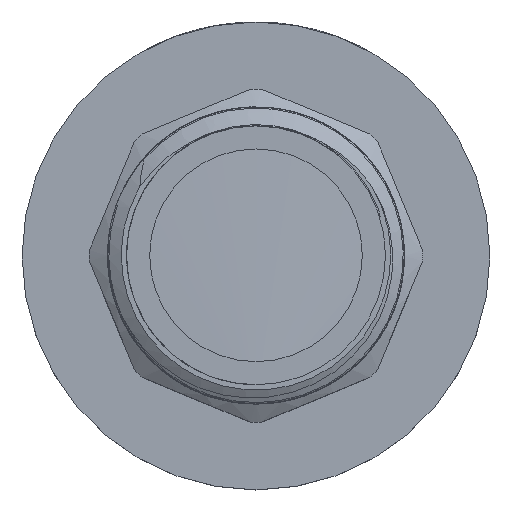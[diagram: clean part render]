
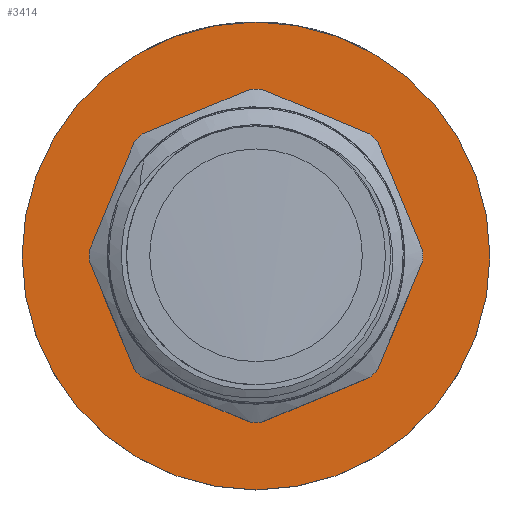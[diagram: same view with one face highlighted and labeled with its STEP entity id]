
A CAD part, top view. The second image highlights one B-rep face of the part: STEP entity #3414.
In plain terms, the highlighted planar face has unit normal (0, 0, 1).
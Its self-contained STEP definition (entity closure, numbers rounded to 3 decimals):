
#266=FACE_BOUND('',#748,.T.);
#375=PLANE('',#3708);
#541=FACE_OUTER_BOUND('',#747,.T.);
#747=EDGE_LOOP('',(#3110,#3111));
#748=EDGE_LOOP('',(#3112));
#1263=CIRCLE('',#3626,16.5);
#1264=CIRCLE('',#3627,16.5);
#1321=CIRCLE('',#3709,10.75);
#1596=VERTEX_POINT('',#6987);
#1597=VERTEX_POINT('',#6989);
#1650=VERTEX_POINT('',#7137);
#2077=EDGE_CURVE('',#1596,#1597,#1263,.T.);
#2078=EDGE_CURVE('',#1597,#1596,#1264,.T.);
#2147=EDGE_CURVE('',#1650,#1650,#1321,.T.);
#3110=ORIENTED_EDGE('',*,*,#2078,.F.);
#3111=ORIENTED_EDGE('',*,*,#2077,.F.);
#3112=ORIENTED_EDGE('',*,*,#2147,.T.);
#3414=ADVANCED_FACE('',(#541,#266),#375,.T.);
#3626=AXIS2_PLACEMENT_3D('',#6990,#4242,#4243);
#3627=AXIS2_PLACEMENT_3D('',#6991,#4244,#4245);
#3708=AXIS2_PLACEMENT_3D('',#7136,#4418,#4419);
#3709=AXIS2_PLACEMENT_3D('',#7138,#4420,#4421);
#4242=DIRECTION('center_axis',(0.,0.,-1.));
#4243=DIRECTION('ref_axis',(1.,0.,0.));
#4244=DIRECTION('center_axis',(0.,0.,-1.));
#4245=DIRECTION('ref_axis',(1.,0.,0.));
#4418=DIRECTION('center_axis',(0.,0.,1.));
#4419=DIRECTION('ref_axis',(1.,0.,0.));
#4420=DIRECTION('center_axis',(0.,0.,-1.));
#4421=DIRECTION('ref_axis',(1.,0.,0.));
#6987=CARTESIAN_POINT('',(0.,-16.5,28.5));
#6989=CARTESIAN_POINT('',(0.,16.5,28.5));
#6990=CARTESIAN_POINT('Origin',(0.,0.,28.5));
#6991=CARTESIAN_POINT('Origin',(0.,0.,28.5));
#7136=CARTESIAN_POINT('Origin',(0.,16.5,28.5));
#7137=CARTESIAN_POINT('',(0.,10.75,28.5));
#7138=CARTESIAN_POINT('Origin',(0.,0.,28.5));
